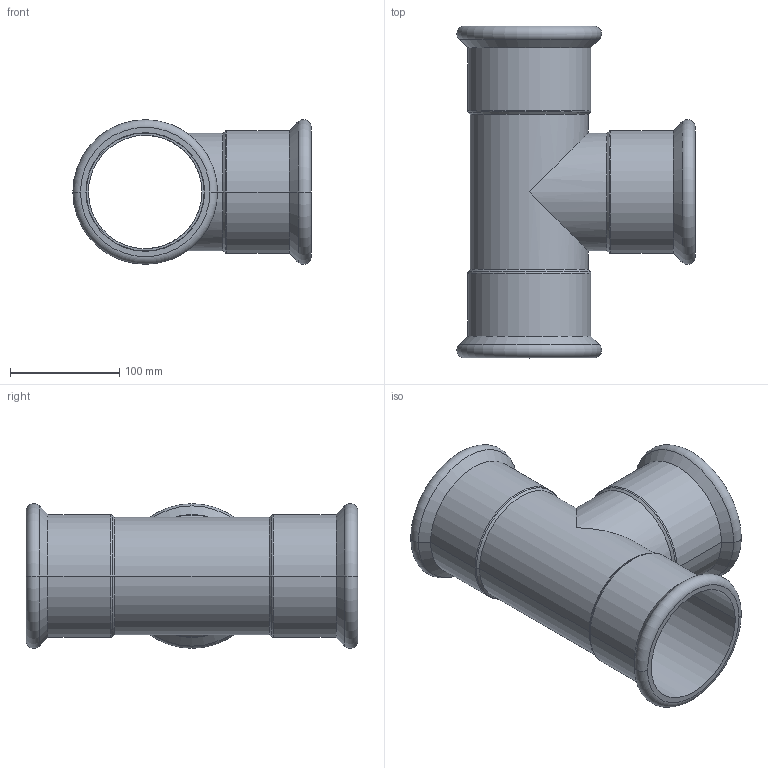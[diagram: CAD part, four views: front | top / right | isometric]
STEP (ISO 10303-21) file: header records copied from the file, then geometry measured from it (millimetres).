
FILE_DESCRIPTION(('CoCreate Modeling STEP Export'),'2;1');
FILE_NAME('C1414 108x108x108.stp','2014-11-11T17:00:06',(''),(''),'CoCreate Modeling STEP processor for AP214 (Solid Model)','CoCreate Modeling 17.00A 17-Jun-2010 (C) Parametric Technology GmbH','');
FILE_SCHEMA(('AUTOMOTIVE_DESIGN { 1 0 10303 214 1 1 1 1 }'));
Length unit declared in the file: millimetre
Products named in the file (2): C1414_108x108x108
Assembly tree (1 placements, depth 2):
  C1414_108x108x108
    C1414_108x108x108
Bounding box: 218.29 x 304 x 132.58 mm (x, y, z)
Volume: 427057.8 mm3; surface area: 286812.2 mm2
Topology: 1 solids, 1 shells, 59 faces, 129 edges, 77 vertices
Faces by surface type: cylinder 26, cone 12, torus 12, plane 9
Entity records: 1356 total; most frequent: ORIENTED_EDGE 258, DIRECTION 208, CARTESIAN_POINT 200, EDGE_CURVE 129, AXIS2_PLACEMENT_3D 85, VERTEX_POINT 77, EDGE_LOOP 68, FACE_OUTER_BOUND 59
